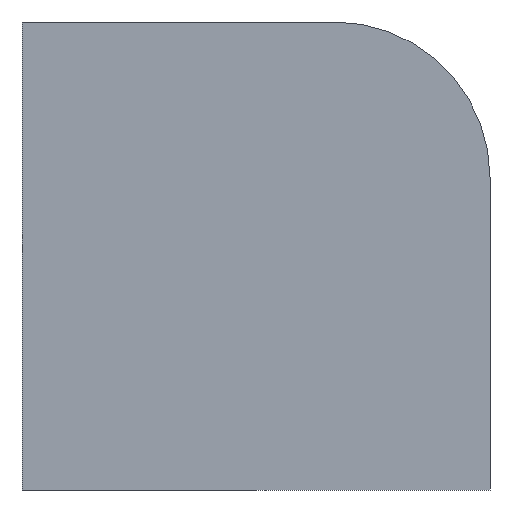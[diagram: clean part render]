
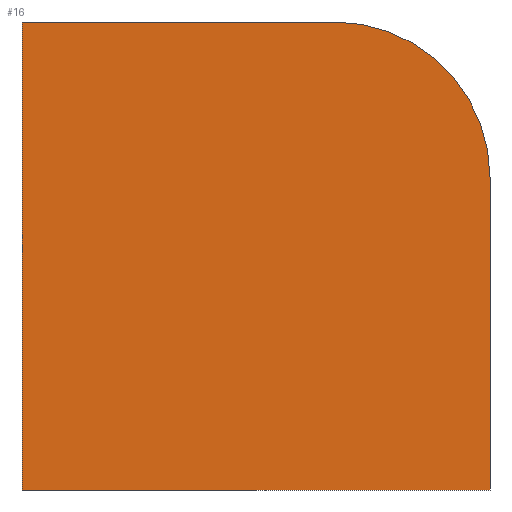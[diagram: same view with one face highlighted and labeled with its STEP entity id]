
A CAD part, left-side view. The second image highlights one B-rep face of the part: STEP entity #16.
In plain terms, the highlighted planar face has unit normal (-1, 0, 0).
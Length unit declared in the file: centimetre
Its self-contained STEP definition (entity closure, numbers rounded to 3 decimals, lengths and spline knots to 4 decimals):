
#13 = CARTESIAN_POINT ( 'NONE',  ( 0., 1000., 1000. ) ) ;
#16 = ADVANCED_FACE ( 'NONE', ( #219 ), #29, .F. ) ;
#17 = AXIS2_PLACEMENT_3D ( 'NONE', #411, #135, #371 ) ;
#18 = VERTEX_POINT ( 'NONE', #409 ) ;
#29 = PLANE ( 'NONE',  #17 ) ;
#39 = LINE ( 'NONE', #346, #293 ) ;
#60 = CARTESIAN_POINT ( 'NONE',  ( 0., 332.748, 667.252 ) ) ;
#71 = CARTESIAN_POINT ( 'NONE',  ( 0., 0., 1000. ) ) ;
#73 = CARTESIAN_POINT ( 'NONE',  ( 0., 0., 667.252 ) ) ;
#81 = VERTEX_POINT ( 'NONE', #97 ) ;
#83 = ORIENTED_EDGE ( 'NONE', *, *, #458, .F. ) ;
#97 = CARTESIAN_POINT ( 'NONE',  ( 0., 332.748, 1000. ) ) ;
#108 = DIRECTION ( 'NONE',  ( 0., -1., 0. ) ) ;
#124 = DIRECTION ( 'NONE',  ( 0., 0., -1. ) ) ;
#125 = CIRCLE ( 'NONE', #488, 332.748 ) ;
#135 = DIRECTION ( 'NONE',  ( 1., 0., 0. ) ) ;
#141 = DIRECTION ( 'NONE',  ( 0., 0., -1. ) ) ;
#154 = ORIENTED_EDGE ( 'NONE', *, *, #343, .F. ) ;
#172 = EDGE_CURVE ( 'NONE', #444, #81, #125, .T. ) ;
#199 = CARTESIAN_POINT ( 'NONE',  ( 0., 1000., 0. ) ) ;
#208 = DIRECTION ( 'NONE',  ( 0., -1., 0. ) ) ;
#210 = LINE ( 'NONE', #388, #501 ) ;
#219 = FACE_OUTER_BOUND ( 'NONE', #433, .T. ) ;
#277 = VERTEX_POINT ( 'NONE', #199 ) ;
#293 = VECTOR ( 'NONE', #108, 100. ) ;
#301 = EDGE_CURVE ( 'NONE', #18, #277, #358, .T. ) ;
#315 = VERTEX_POINT ( 'NONE', #430 ) ;
#338 = DIRECTION ( 'NONE',  ( -1., 0., 0. ) ) ;
#343 = EDGE_CURVE ( 'NONE', #18, #81, #210, .T. ) ;
#346 = CARTESIAN_POINT ( 'NONE',  ( 0., 1000., 0. ) ) ;
#358 = LINE ( 'NONE', #13, #489 ) ;
#371 = DIRECTION ( 'NONE',  ( 0., 0., -1. ) ) ;
#378 = DIRECTION ( 'NONE',  ( 0., 0., -1. ) ) ;
#380 = LINE ( 'NONE', #71, #456 ) ;
#382 = ORIENTED_EDGE ( 'NONE', *, *, #301, .T. ) ;
#388 = CARTESIAN_POINT ( 'NONE',  ( 0., 1000., 1000. ) ) ;
#394 = ORIENTED_EDGE ( 'NONE', *, *, #172, .T. ) ;
#409 = CARTESIAN_POINT ( 'NONE',  ( 0., 1000., 1000. ) ) ;
#411 = CARTESIAN_POINT ( 'NONE',  ( 0., 1000., 1000. ) ) ;
#430 = CARTESIAN_POINT ( 'NONE',  ( 0., 0., 0. ) ) ;
#433 = EDGE_LOOP ( 'NONE', ( #83, #394, #154, #382, #482 ) ) ;
#444 = VERTEX_POINT ( 'NONE', #73 ) ;
#456 = VECTOR ( 'NONE', #378, 100. ) ;
#458 = EDGE_CURVE ( 'NONE', #444, #315, #380, .T. ) ;
#482 = ORIENTED_EDGE ( 'NONE', *, *, #510, .T. ) ;
#488 = AXIS2_PLACEMENT_3D ( 'NONE', #60, #338, #141 ) ;
#489 = VECTOR ( 'NONE', #124, 100. ) ;
#501 = VECTOR ( 'NONE', #208, 100. ) ;
#510 = EDGE_CURVE ( 'NONE', #277, #315, #39, .T. ) ;
